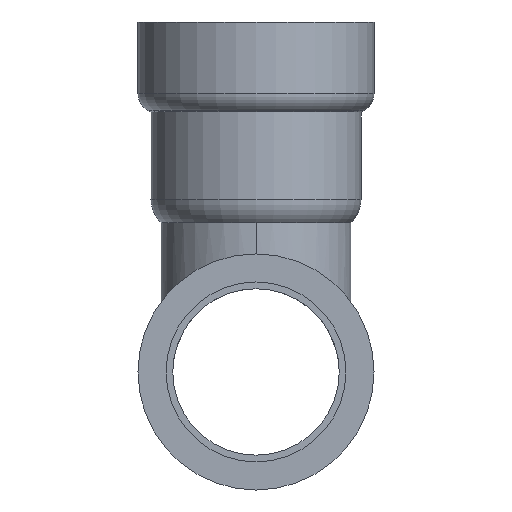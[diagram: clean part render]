
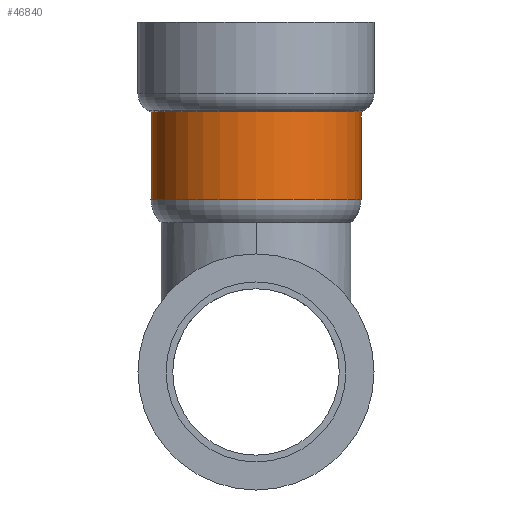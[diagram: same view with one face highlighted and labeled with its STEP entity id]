
A CAD part, left-side view. The second image highlights one B-rep face of the part: STEP entity #46840.
In plain terms, the highlighted cylindrical face has radius 20.2 mm (diameter 40.4 mm), a partial arc.
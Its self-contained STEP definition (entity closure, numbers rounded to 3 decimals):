
#45900=CARTESIAN_POINT('',(101.941,18.5,
-49.997));
#45910=VERTEX_POINT('',#45900);
#46090=CARTESIAN_POINT('',(101.94,58.9,
-49.997));
#46100=VERTEX_POINT('',#46090);
#46130=CARTESIAN_POINT('',(101.94,38.7,-49.997)
);
#46140=DIRECTION('',(0.,0.,-1.));
#46150=DIRECTION('',(0.,-1.,
0.));
#46160=AXIS2_PLACEMENT_3D('',#46130,#46140,#46150);
#46170=CIRCLE('',#46160,20.2);
#46180=EDGE_CURVE('',#45910,#46100,#46170,.T.);
#46490=CARTESIAN_POINT('',(101.94,38.7,-40.847)
);
#46500=DIRECTION('',(0.,0.,-1.));
#46510=DIRECTION('',(0.,-1.,
0.));
#46520=AXIS2_PLACEMENT_3D('',#46490,#46500,#46510);
#46530=CYLINDRICAL_SURFACE('',#46520,20.2);
#46540=CARTESIAN_POINT('',(101.94,58.9,
-40.847));
#46550=DIRECTION('',(0.,0.,-1.));
#46560=VECTOR('',#46550,1.);
#46570=LINE('',#46540,#46560);
#46580=CARTESIAN_POINT('',(101.94,58.9,
-33.117));
#46590=VERTEX_POINT('',#46580);
#46600=EDGE_CURVE('',#46590,#46100,#46570,.T.);
#46610=ORIENTED_EDGE('',*,*,#46600,.T.);
#46620=CARTESIAN_POINT('',(101.94,38.7,-33.117)
);
#46630=DIRECTION('',(0.,0.,1.));
#46640=DIRECTION('',(0.,1.,0.));
#46650=AXIS2_PLACEMENT_3D('',#46620,#46630,#46640);
#46660=CIRCLE('',#46650,20.2);
#46670=CARTESIAN_POINT('',(101.94,18.5,-33.117)
);
#46680=VERTEX_POINT('',#46670);
#46690=EDGE_CURVE('',#46590,#46680,#46660,.T.);
#46700=ORIENTED_EDGE('',*,*,#46690,.F.);
#46710=CARTESIAN_POINT('',(101.941,18.5,
-33.117));
#46720=VERTEX_POINT('',#46710);
#46730=EDGE_CURVE('',#46680,#46720,#46660,.T.);
#46740=ORIENTED_EDGE('',*,*,#46730,.F.);
#46750=CARTESIAN_POINT('',(101.941,18.5,
-40.847));
#46760=DIRECTION('',(0.,0.,-1.));
#46770=VECTOR('',#46760,1.);
#46780=LINE('',#46750,#46770);
#46790=EDGE_CURVE('',#46720,#45910,#46780,.T.);
#46800=ORIENTED_EDGE('',*,*,#46790,.F.);
#46810=ORIENTED_EDGE('',*,*,#46180,.F.);
#46820=EDGE_LOOP('',(#46810,#46800,#46740,#46700,#46610));
#46830=FACE_OUTER_BOUND('',#46820,.T.);
#46840=ADVANCED_FACE('',(#46830),#46530,.T.);
